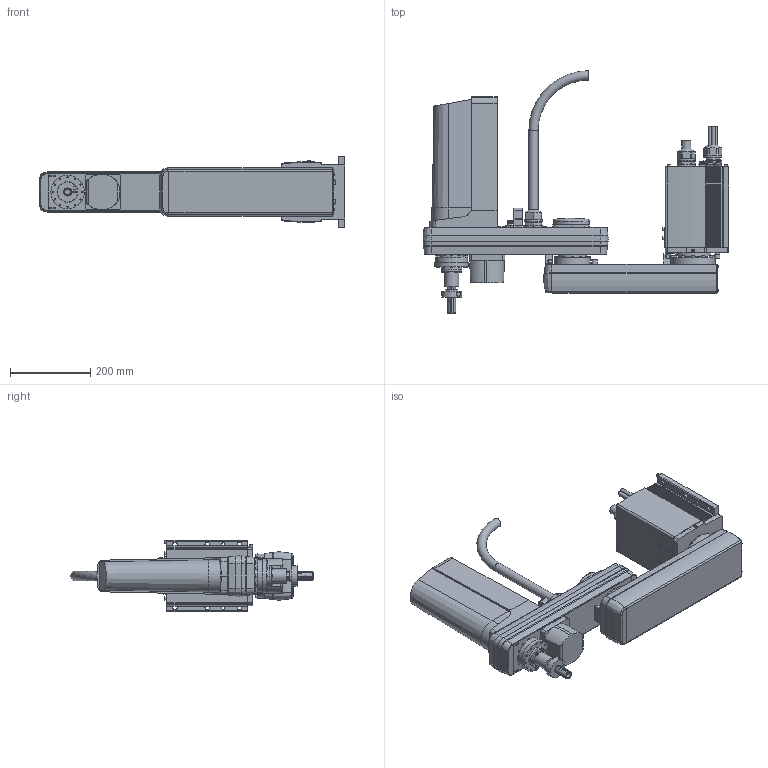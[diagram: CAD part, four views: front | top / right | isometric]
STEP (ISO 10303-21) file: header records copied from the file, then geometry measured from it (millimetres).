
FILE_DESCRIPTION( ( 'STEP AP214' ), '1' );
FILE_NAME( 'p:/temp/worker_42/3412_3144/app_42_02015071419112757837845192d056f_00_00_00_000/STEP/YK600XGS-200_2_14.stp', ' ', ( ' ' ), ( ' ' ), 'PSStep 15.0.47', 'PARTsolutions', ' ' );
FILE_SCHEMA( ( 'AUTOMOTIVE_DESIGN { 1 0 10303 214 1 1 1 1 }' ) );
Length unit declared in the file: millimetre
Products named in the file (5): YK600XGS-200; _YK600XGS-200-1; _YK600XGS-200-2; _YK600XGS-200-3; _YK600XGS-200-4
Assembly tree (4 placements, depth 2):
  YK600XGS-200
    _YK600XGS-200-1
    _YK600XGS-200-2
    _YK600XGS-200-3
    _YK600XGS-200-4
Bounding box: 760.5 x 602.5 x 178 mm (x, y, z)
Volume: 17019821.5 mm3; surface area: 902758.3 mm2
Topology: 4 solids, 4 shells, 1171 faces, 2801 edges, 1814 vertices
Faces by surface type: plane 688, cylinder 315, cone 137, torus 16, bspline 15
Full cylindrical faces by diameter (mm): 2.6 x2, 3 x12, 3.242 x4, 4 x1, 4.5 x2, 4.8 x2, 5.5 x30, 6 x6, 6.28 x1, 7 x25, 7.6 x4, 8 x3, 8.1 x4, 8.3 x4, 9.5 x4, 9.53 x4, 10 x6, 10.8 x2, 11 x7, 11.4 x4, 11.8 x2, 12.5 x4, 12.8 x4, 13 x5, 13.835 x1, 14 x1, 20 x2, 23 x2, 34 x1, 35 x3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
Entity records: 42840 total; most frequent: CARTESIAN_POINT 7046, DIRECTION 5535, ORIENTED_EDGE 5030, EDGE_CURVE 2515, AXIS2_PLACEMENT_3D 2068, VERTEX_POINT 1739, EDGE_LOOP 1601, LINE 1399
